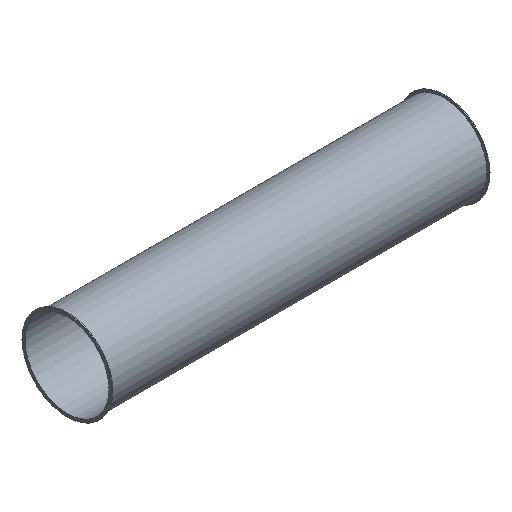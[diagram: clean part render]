
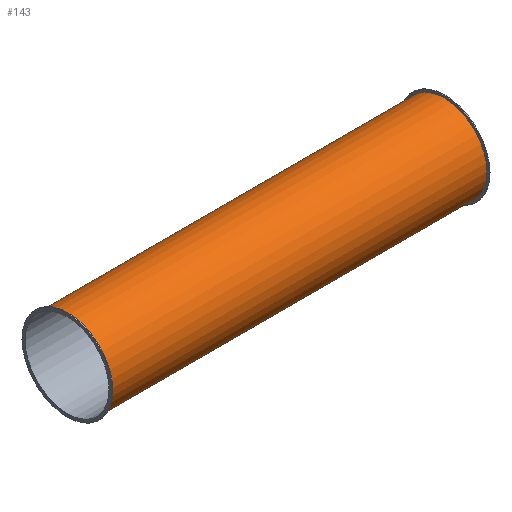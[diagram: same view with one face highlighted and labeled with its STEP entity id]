
A CAD part, isometric view. The second image highlights one B-rep face of the part: STEP entity #143.
In plain terms, the highlighted cylindrical face has radius 111.5 mm (diameter 223 mm), a full revolution.
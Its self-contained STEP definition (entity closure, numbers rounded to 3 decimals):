
#112=CARTESIAN_POINT('',(952.119,2.817,0.0));
#113=VERTEX_POINT('',#112);
#114=CARTESIAN_POINT('',(952.119,114.317,0.0));
#115=DIRECTION('',(-1.0,0.0,0.0));
#116=DIRECTION('',(0.0,-1.0,0.0));
#117=AXIS2_PLACEMENT_3D('',#114,#115,#116);
#118=CIRCLE('',#117,111.5);
#119=EDGE_CURVE('',#113,#113,#118,.T.);
#124=CARTESIAN_POINT('',(461.119,114.317,0.0));
#125=DIRECTION('',(-1.0,0.,0.0));
#126=DIRECTION('',(0.0,-1.0,0.0));
#127=AXIS2_PLACEMENT_3D('',#124,#125,#126);
#128=CYLINDRICAL_SURFACE('',#127,111.5);
#129=CARTESIAN_POINT('',(-29.881,2.817,0.0));
#130=VERTEX_POINT('',#129);
#131=CARTESIAN_POINT('',(-29.881,114.317,0.0));
#132=DIRECTION('',(-1.0,0.0,0.0));
#133=DIRECTION('',(0.0,-1.0,0.0));
#134=AXIS2_PLACEMENT_3D('',#131,#132,#133);
#135=CIRCLE('',#134,111.5);
#136=EDGE_CURVE('',#130,#130,#135,.T.);
#137=ORIENTED_EDGE('',*,*,#136,.F.);
#138=EDGE_LOOP('',(#137));
#139=FACE_OUTER_BOUND('',#138,.T.);
#140=ORIENTED_EDGE('',*,*,#119,.T.);
#141=EDGE_LOOP('',(#140));
#142=FACE_BOUND('',#141,.T.);
#143=ADVANCED_FACE('',(#139,#142),#128,.T.);
